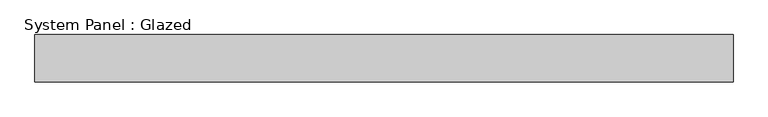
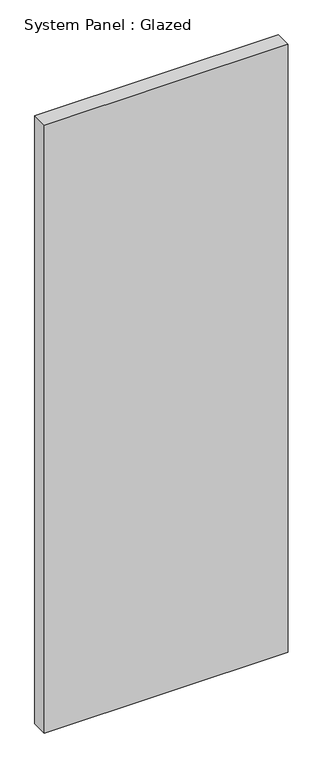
"""IFC4 building model written with IfcOpenShell, lengths in millimetres: plate geometry, System Panel : Glazed."""

from ifc_helpers import new_model, si_unit, origin, origin_with_axes, place, context, project, spatial, polyline, outline, extrude, source, transform, mapped, element, save


def system_panel_glazed_b5201366(model_context):
    return source(origin(), model_context, "Body", "SweptSolid", [
        extrude(outline(polyline([(739.5454547, 50.0), (-739.5454547, 50.0), (-739.5454547, 150.0), (739.5454547, 150.0), (739.5454547, 50.0)])), origin_with_axes(), (0.0, 0.0, 1.0), 3900.0),
    ])


if __name__ == "__main__":
    model = new_model("IFC4")
    model_context = context("Model", 3, world=origin())
    ifc_project = project(units=[si_unit("LENGTHUNIT", "METRE", prefix="MILLI")], contexts=[model_context])
    site = spatial("IfcSite", under=ifc_project)
    building = spatial("IfcBuilding", under=site)
    placement = place(None, origin())
    system_panel_glazed_shape = system_panel_glazed_b5201366(model_context)
    element("IfcPlate", 1, ObjectType="System Panel : Glazed", at=placement, inside=building, context=model_context, shape_type="MappedRepresentation", body=[
        mapped(system_panel_glazed_shape, transform((0.0, 0.0, 0.0), x_axis=(1.0, 0.0, 0.0), y_axis=(0.0, 1.0, 0.0), z_axis=(0.0, 0.0, 1.0))),
    ])
    save(model, "model.ifc")
